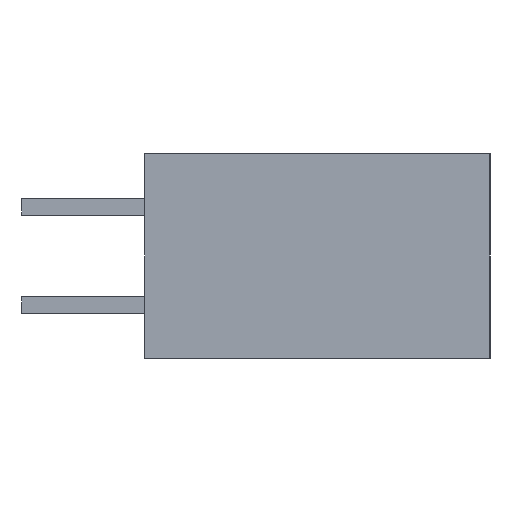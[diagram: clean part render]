
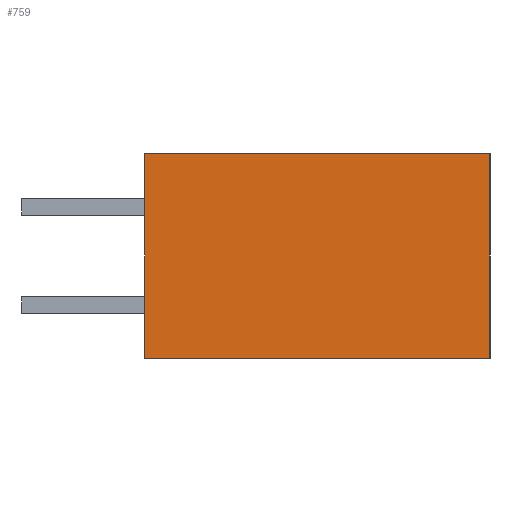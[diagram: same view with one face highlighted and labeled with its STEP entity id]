
A CAD part, left-side view. The second image highlights one B-rep face of the part: STEP entity #759.
In plain terms, the highlighted planar face has unit normal (-1, 0, 0).
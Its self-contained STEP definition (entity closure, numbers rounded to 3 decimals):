
#319 = CARTESIAN_POINT ( 'NONE',  ( -25.7, 0., -2.5 ) ) ;
#456 = FACE_OUTER_BOUND ( 'NONE', #7542, .T. ) ;
#593 = PLANE ( 'NONE',  #10112 ) ;
#679 = VERTEX_POINT ( 'NONE', #10004 ) ;
#703 = EDGE_CURVE ( 'NONE', #3447, #11133, #10469, .T. ) ;
#759 = ADVANCED_FACE ( 'NONE', ( #456 ), #593, .F. ) ;
#943 = CARTESIAN_POINT ( 'NONE',  ( -25.7, 0., 2.5 ) ) ;
#1872 = VECTOR ( 'NONE', #3856, 1000. ) ;
#2030 = CARTESIAN_POINT ( 'NONE',  ( -25.7, 8.44, -2.5 ) ) ;
#2431 = LINE ( 'NONE', #319, #1872 ) ;
#2779 = LINE ( 'NONE', #8324, #7220 ) ;
#2985 = VERTEX_POINT ( 'NONE', #943 ) ;
#3264 = DIRECTION ( 'NONE',  ( 0., 0., -1. ) ) ;
#3447 = VERTEX_POINT ( 'NONE', #2030 ) ;
#3475 = ORIENTED_EDGE ( 'NONE', *, *, #703, .F. ) ;
#3856 = DIRECTION ( 'NONE',  ( 0., 0., 1. ) ) ;
#4544 = EDGE_CURVE ( 'NONE', #3447, #679, #2779, .T. ) ;
#4710 = VECTOR ( 'NONE', #7513, 1000. ) ;
#5129 = DIRECTION ( 'NONE',  ( 1., 0., 0. ) ) ;
#5138 = EDGE_CURVE ( 'NONE', #11133, #2985, #9435, .T. ) ;
#5683 = CARTESIAN_POINT ( 'NONE',  ( -25.7, 8.44, 2.5 ) ) ;
#6385 = CARTESIAN_POINT ( 'NONE',  ( -25.7, 8.44, -2.5 ) ) ;
#6570 = DIRECTION ( 'NONE',  ( 0., 0., 1. ) ) ;
#7220 = VECTOR ( 'NONE', #7715, 1000. ) ;
#7513 = DIRECTION ( 'NONE',  ( 0., -1., 0. ) ) ;
#7542 = EDGE_LOOP ( 'NONE', ( #7827, #10587, #3475, #9869 ) ) ;
#7685 = VECTOR ( 'NONE', #6570, 1000. ) ;
#7695 = CARTESIAN_POINT ( 'NONE',  ( -25.7, 8.44, -2.5 ) ) ;
#7715 = DIRECTION ( 'NONE',  ( 0., -1., 0. ) ) ;
#7827 = ORIENTED_EDGE ( 'NONE', *, *, #9551, .T. ) ;
#8092 = CARTESIAN_POINT ( 'NONE',  ( -25.7, 8.44, 2.5 ) ) ;
#8324 = CARTESIAN_POINT ( 'NONE',  ( -25.7, 8.44, -2.5 ) ) ;
#9435 = LINE ( 'NONE', #5683, #4710 ) ;
#9551 = EDGE_CURVE ( 'NONE', #679, #2985, #2431, .T. ) ;
#9869 = ORIENTED_EDGE ( 'NONE', *, *, #4544, .T. ) ;
#10004 = CARTESIAN_POINT ( 'NONE',  ( -25.7, 0., -2.5 ) ) ;
#10112 = AXIS2_PLACEMENT_3D ( 'NONE', #7695, #5129, #3264 ) ;
#10469 = LINE ( 'NONE', #6385, #7685 ) ;
#10587 = ORIENTED_EDGE ( 'NONE', *, *, #5138, .F. ) ;
#11133 = VERTEX_POINT ( 'NONE', #8092 ) ;
